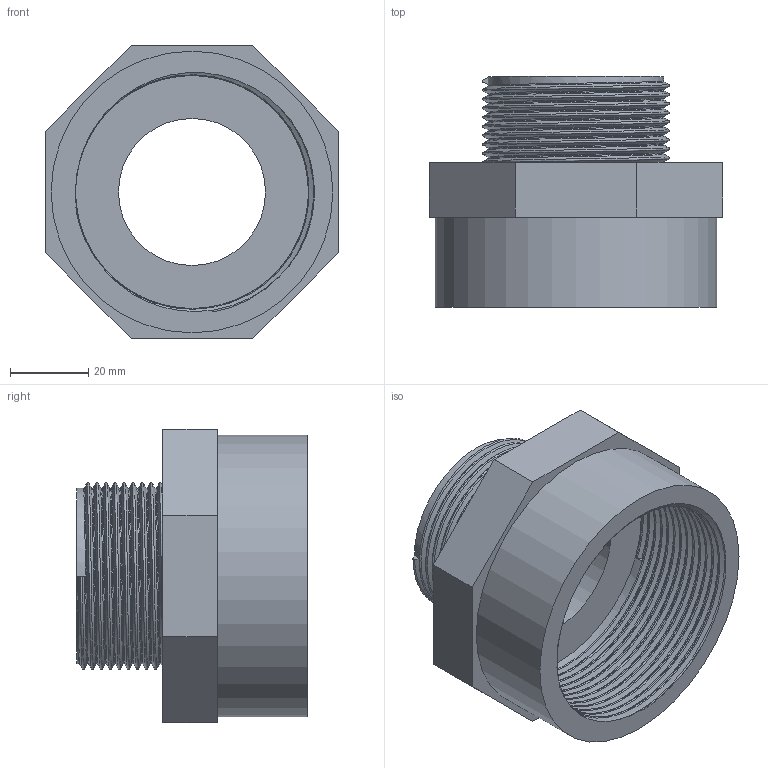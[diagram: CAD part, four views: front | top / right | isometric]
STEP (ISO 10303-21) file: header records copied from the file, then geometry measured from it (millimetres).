
FILE_DESCRIPTION(/* description */ ('PVC riduzione filettata BSP femmina-maschio (maggioratore filettato BSP M-F)'),/* implementation_level */ '2;1');
FILE_NAME(/* name */ 'C:\Users\POLYPIPE\Desktop\DATASET INVENTOR\LIBRERIA EFFAST\RACCORDI 3DxWEB\RER\3D_RERMGE\3D_RERMGE050G.stp',/* time_stamp */ '2018-01-19T16:40:19+01:00',/* author */ ('POLYPIPE'),/* organization */ ('Polypipe Italia s.r.l.'),/* preprocessor_version */ 'ST-DEVELOPER v16.1',/* originating_system */ 'Autodesk Inventor 2016',/* authorisation */ '');
FILE_SCHEMA (('CONFIG_CONTROL_DESIGN'));
Length unit declared in the file: millimetre
Products named in the file (1): 3D_RERMGE
Bounding box: 75 x 59 x 75 mm (x, y, z)
Volume: 77352.3 mm3; surface area: 33811.2 mm2
Topology: 1 solids, 1 shells, 29 faces, 69 edges, 45 vertices
Faces by surface type: plane 15, bspline 10, cylinder 4
Full cylindrical faces by diameter (mm): 37.6 x1, 44.845 x1, 59.614 x1, 72 x1
Entity records: 8831 total; most frequent: CARTESIAN_POINT 8216, ORIENTED_EDGE 128, DIRECTION 94, EDGE_CURVE 64, VERTEX_POINT 43, EDGE_LOOP 37, AXIS2_PLACEMENT_3D 32, LINE 30
